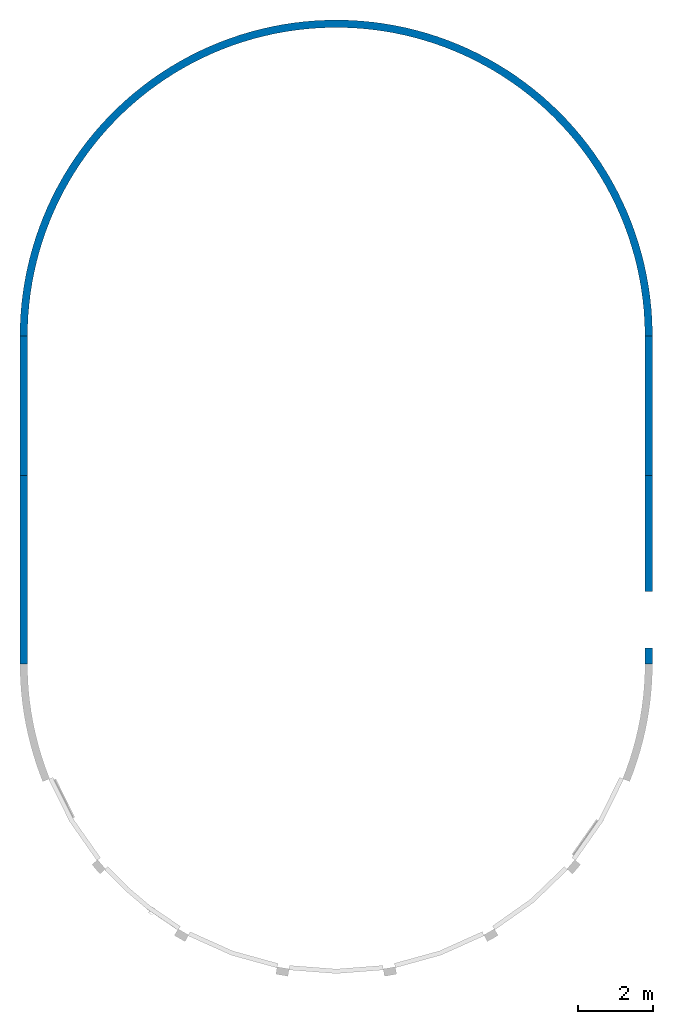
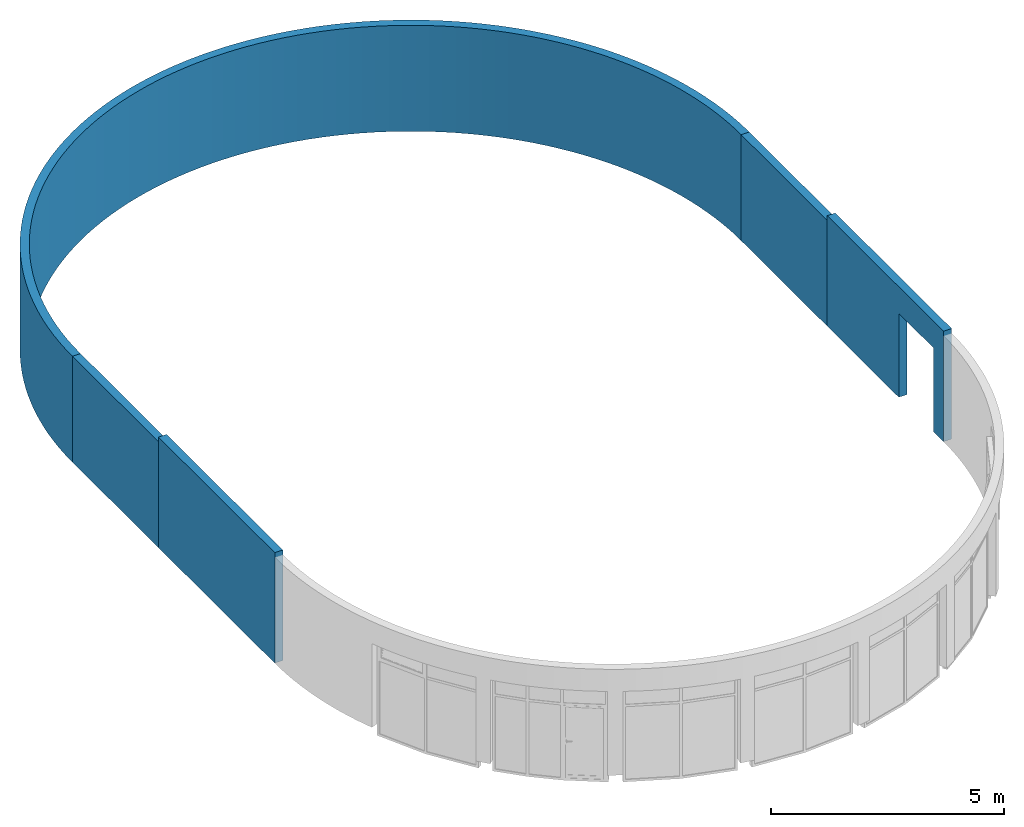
# One storey, part 1 of 7: 5 walls, 1 opening.
"""IFC4 building model written with IfcOpenShell, lengths in millimetres."""

from ifc_helpers import new_model, entity, si_unit, converted_unit, derived_unit, direction, frame, origin_with_axes, place, context, subcontext, project, spatial, polygons, material, constituent, constituent_set, type_object, element, save


model = new_model("IFC4")

# Units and contexts
model_context = context("Model", 3, precision=0.01, world=origin_with_axes(), true_north=direction((0.0, 1.0)))
body_context = subcontext(model_context, "Body", "Model", "MODEL_VIEW")
ifc_project = project(units=[si_unit("LENGTHUNIT", "METRE", prefix="MILLI"), si_unit("AREAUNIT", "SQUARE_METRE"), si_unit("VOLUMEUNIT", "CUBIC_METRE"), converted_unit("PLANEANGLEUNIT", "DEGREE", entity("IfcPlaneAngleMeasure", 0.0174532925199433), si_unit("PLANEANGLEUNIT", "RADIAN"), dimensions=[0, 0, 0, 0, 0, 0, 0]), converted_unit("TIMEUNIT", "Year", entity("IfcTimeMeasure", 31557600.0), si_unit("TIMEUNIT", "SECOND"), dimensions=[0, 0, 1, 0, 0, 0, 0]), si_unit("MASSUNIT", "GRAM", prefix="KILO"), si_unit("THERMODYNAMICTEMPERATUREUNIT", "DEGREE_CELSIUS"), si_unit("LUMINOUSINTENSITYUNIT", "LUMEN"), si_unit("ENERGYUNIT", "JOULE", prefix="MEGA"), derived_unit("THERMALCONDUCTANCEUNIT", [(si_unit("POWERUNIT", "WATT"), 1), (si_unit("LENGTHUNIT", "METRE"), -1), (si_unit("THERMODYNAMICTEMPERATUREUNIT", "KELVIN"), -1)]), derived_unit("SPECIFICHEATCAPACITYUNIT", [(si_unit("ENERGYUNIT", "JOULE"), 1), (si_unit("MASSUNIT", "GRAM", prefix="KILO"), -1), (si_unit("THERMODYNAMICTEMPERATUREUNIT", "KELVIN"), -1)]), derived_unit("MASSDENSITYUNIT", [(si_unit("MASSUNIT", "GRAM", prefix="KILO"), 1), (si_unit("VOLUMEUNIT", "CUBIC_METRE"), -1)])], contexts=[model_context])

# Site, building, storey
site_placement = place(None, origin_with_axes())
site = spatial("IfcSite", under=ifc_project, at=site_placement, Name="Exteriér", CompositionType="ELEMENT")
building_placement = place(site_placement, origin_with_axes())
building = spatial("IfcBuilding", under=site, at=building_placement, Name="Univerzitní lezecké centrum", CompositionType="ELEMENT")
storey_placement = place(building_placement, origin_with_axes())
storey = spatial("IfcBuildingStorey", under=building, at=storey_placement, Name="1.NP", CompositionType="ELEMENT", Elevation=0.0)

# Walls
ifc_material = material(Name="Tepelná izolace - minerální vata - obvodová izolace")
ifc_constituent_1 = constituent(ifc_material, Name="Tepelná izolace - minerální vata - obvodová izolace")
ifc_constituent_set_1 = constituent_set(constituents=[ifc_constituent_1], Name="Obvodová tepelná izolace")
wall_type = type_object("IfcWallType", Name="Obvodová tepelná izolace 200", PredefinedType="NOTDEFINED")
wall_1_placement = place(storey_placement, frame((10649.85164885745, 8399.999999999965, 300.0), z_axis=(0.0, 0.0, 1.0), x_axis=(0.0, 1.0, 0.0)))
element("IfcWall", 1, at=wall_1_placement, inside=storey, type_object=wall_type, material=ifc_constituent_set_1, Name="St01", PredefinedType="NOTDEFINED", context=body_context, shape_type="Tessellation", body=[
    polygons([(147.4418335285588, -199.9999999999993, 0.0), (147.4418335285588, -199.9999999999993, 2780.0), (0.0, -199.9999999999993, 2780.0), (0.0, -199.9999999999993, 0.0), (442.1438529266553, -189.6512387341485, 0.0), (442.1438529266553, -189.6512387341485, 2780.0), (143.931313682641, 0.0, 2780.0), (0.0, 0.0, 2780.0), (0.0, 0.0, 0.0), (143.931313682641, 0.0, 0.0), (736.3011531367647, -168.9664658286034, 0.0), (736.3011531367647, -168.9664658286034, 2780.0), (431.6166183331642, 10.10236218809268, 2780.0), (431.6166183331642, 10.10236218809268, 0.0), (1029.551333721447, -137.9711648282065, 0.0), (1029.551333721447, -137.9711648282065, 2780.0), (718.7701733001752, 30.29464050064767, 2780.0), (718.7701733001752, 30.29464050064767, 0.0), (1321.533111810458, -96.70352180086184, 0.0), (1321.533111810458, -96.70352180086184, 2780.0), (1005.038206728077, 60.55195814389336, 2780.0), (1005.038206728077, 60.55195814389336, 0.0), (1611.886767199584, -45.21437829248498, 0.0), (1611.886767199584, -45.21437829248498, 2780.0), (1290.068037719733, 100.8370382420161, 2780.0), (1290.068037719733, 100.8370382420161, 0.0), (1900.254585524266, 16.4328313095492, 0.0), (1900.254585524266, 16.4328313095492, 2780.0), (1573.508510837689, 151.1002497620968, 2780.0), (1573.508510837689, 151.1002497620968, 0.0), (2186.281298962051, 88.16215792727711, 0.0), (2186.281298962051, 88.16215792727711, 2780.0), (1855.01042872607, 211.279668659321, 2780.0), (1855.01042872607, 211.279668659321, 0.0), (2469.614523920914, 169.8852313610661, 0.0), (2469.614523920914, 169.8852313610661, 2780.0), (2134.226982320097, 281.3011541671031, 2780.0), (2134.226982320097, 281.3011541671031, 0.0), (2749.905195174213, 261.5013691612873, 0.0), (2749.905195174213, 261.5013691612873, 2780.0), (2410.814178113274, 361.078440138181, 2780.0), (2410.814178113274, 361.078440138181, 0.0), (3026.807995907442, 362.8977006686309, 0.0), (3026.807995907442, 362.8977006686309, 2780.0), (2684.43126195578, 450.5132413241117, 2780.0), (2684.43126195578, 450.5132413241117, 0.0), (3299.981783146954, 473.9493060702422, 0.0), (3299.981783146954, 473.9493060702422, 2780.0), (2954.741138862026, 549.4953744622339, 2780.0), (2954.741138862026, 549.4953744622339, 0.0), (3569.090008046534, 594.519370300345, 0.0), (3569.090008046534, 594.519370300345, 2780.0), (3221.410788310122, 657.9028940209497, 2780.0), (3221.410788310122, 657.9028940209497, 0.0), (3833.801130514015, 724.4593515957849, 0.0), (3833.801130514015, 724.4593515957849, 2780.0), (3484.111674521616, 775.6022424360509, 2780.0), (3484.111674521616, 775.6022424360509, 0.0), (4093.78902766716, 863.6091644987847, 0.0), (4093.78902766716, 863.6091644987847, 2780.0), (3742.520151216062, 902.4484146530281, 2780.0), (3742.520151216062, 902.4484146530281, 0.0), (4348.733395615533, 1011.797377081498, 0.0), (4348.733395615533, 1011.797377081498, 2780.0), (3996.317860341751, 1038.285136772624, 2780.0), (3996.317860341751, 1038.285136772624, 0.0), (4598.320144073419, 1168.841422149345, 0.0), (4598.320144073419, 1168.841422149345, 2780.0), (4245.192124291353, 1182.945058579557, 2780.0), (4245.192124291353, 1182.945058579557, 0.0), (4842.241783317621, 1334.547822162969, 0.0), (4842.241783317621, 1334.547822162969, 2780.0), (4488.836331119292, 1336.249959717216, 2780.0), (4488.836331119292, 1336.249959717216, 0.0), (5080.197803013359, 1508.71242760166, 0.0), (5080.197803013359, 1508.71242760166, 2780.0), (4726.950312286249, 1498.010969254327, 2780.0), (4726.950312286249, 1498.010969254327, 0.0), (5311.895042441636, 1691.120668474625, 0.0), (5311.895042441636, 1691.120668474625, 2780.0), (4959.240712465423, 1668.028798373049, 2780.0), (4959.240712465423, 1668.028798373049, 0.0), (5537.048051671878, 1881.547818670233, 0.0), (5537.048051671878, 1881.547818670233, 2780.0), (5185.421350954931, 1846.093985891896, 2780.0), (5185.421350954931, 1846.093985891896, 0.0), (5755.379443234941, 2079.75927281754, 0.0), (5755.379443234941, 2079.75927281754, 2780.0), (5405.213574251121, 2031.987156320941, 2780.0), (5405.213574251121, 2031.987156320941, 0.0), (5966.620233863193, 2285.510835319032, 0.0), (5966.620233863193, 2285.510835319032, 2780.0), (5618.346599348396, 2225.479290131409, 2780.0), (5618.346599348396, 2225.479290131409, 0.0), (6170.51017587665, 2498.549021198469, 0.0), (6170.51017587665, 2498.549021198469, 2780.0), (5824.557847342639, 2426.332005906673, 2780.0), (5824.557847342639, 2426.332005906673, 0.0), (6366.798077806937, 2718.611368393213, 0.0), (6366.798077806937, 2718.611368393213, 2780.0), (6023.593266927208, 2634.297854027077, 2780.0), (6023.593266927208, 2634.297854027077, 0.0), (6555.242113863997, 2945.426761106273, 0.0), (6555.242113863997, 2945.426761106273, 2780.0), (6215.207647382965, 2849.120621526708, 2780.0), (6215.207647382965, 2849.120621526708, 0.0), (6735.610121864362, 3178.715763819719, 0.0), (6735.610121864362, 3178.715763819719, 2780.0), (6399.164920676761, 3070.5356477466, 2780.0), (6399.164920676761, 3070.5356477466, 0.0), (6907.67988925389, 3418.190965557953, 0.0), (6907.67988925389, 3418.190965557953, 2780.0), (6575.238452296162, 3298.270150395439, 2780.0), (6575.238452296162, 3298.270150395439, 0.0), (7071.239426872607, 3663.557333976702, 0.0), (7071.239426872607, 3663.557333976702, 2780.0), (6743.21132046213, 3532.043561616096, 2780.0), (6743.21132046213, 3532.043561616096, 0.0), (7226.087230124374, 3914.512578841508, 0.0), (7226.087230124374, 3914.512578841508, 2780.0), (6902.876583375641, 3771.567873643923, 2780.0), (6902.876583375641, 3771.567873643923, 0.0), (7372.03252722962, 4170.747524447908, 0.0), (7372.03252722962, 4170.747524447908, 2780.0), (7054.037534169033, 4016.547993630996, 2780.0), (7054.037534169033, 4016.547993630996, 0.0), (7508.895514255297, 4431.946490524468, 0.0), (7508.895514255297, 4431.946490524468, 2780.0), (7196.507943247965, 4266.68210719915, 2780.0), (7196.507943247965, 4266.68210719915, 0.0), (7636.507576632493, 4697.787681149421, 0.0), (7636.507576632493, 4697.787681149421, 2780.0), (7330.112287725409, 4521.662050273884, 2780.0), (7330.112287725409, 4521.662050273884, 0.0), (7754.711496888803, 4967.943581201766, 0.0), (7754.711496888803, 4967.943581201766, 2780.0), (7454.685967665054, 4781.1736887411, 2780.0), (7454.685967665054, 4781.1736887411, 0.0), (7863.361648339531, 5242.081359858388, 0.0), (7863.361648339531, 5242.081359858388, 2780.0), (7570.075508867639, 5044.897305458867, 2780.0), (7570.075508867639, 5044.897305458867, 0.0), (7962.324174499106, 5519.863280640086, 0.0), (7962.324174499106, 5519.863280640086, 2780.0), (7676.138751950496, 5312.507994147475, 2780.0), (7676.138751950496, 5312.507994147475, 0.0), (8051.477153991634, 5800.947117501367, 0.0), (8051.477153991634, 5800.947117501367, 2780.0), (7772.745027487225, 5583.676059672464, 2780.0), (7772.745027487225, 5583.676059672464, 0.0), (8130.710750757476, 6084.986576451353, 0.0), (8130.710750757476, 6084.986576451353, 2780.0), (7859.775316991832, 5858.067424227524, 2780.0), (7859.775316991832, 5858.067424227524, 0.0), (8199.927349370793, 6371.631722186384, 0.0), (8199.927349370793, 6371.631722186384, 2780.0), (7937.122399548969, 6135.344038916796, 2780.0), (7937.122399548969, 6135.344038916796, 0.0), (8259.041675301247, 6660.529409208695, 0.0), (8259.041675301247, 6660.529409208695, 2780.0), (8004.69098390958, 6415.164300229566, 2780.0), (8004.69098390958, 6415.164300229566, 0.0), (8307.980899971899, 6951.323716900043, 0.0), (8307.980899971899, 6951.323716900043, 2780.0), (8062.397825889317, 6697.183470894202, 2780.0), (8062.397825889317, 6697.183470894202, 0.0), (8346.684730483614, 7243.656388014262, 0.0), (8346.684730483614, 7243.656388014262, 2780.0), (8110.171830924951, 6981.0541045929, 2780.0), (8110.171830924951, 6981.0541045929, 0.0), (8375.10548389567, 7537.167270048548, 0.0), (8375.10548389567, 7537.167270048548, 2780.0), (8147.95414166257, 7266.426474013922, 2780.0), (8147.95414166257, 7266.426474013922, 0.0), (8393.20814597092, 7831.494758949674, 0.0), (8393.20814597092, 7831.494758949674, 2780.0), (8175.69821046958, 7552.949001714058, 2780.0), (8175.69821046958, 7552.949001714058, 0.0), (8400.970414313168, 8126.276244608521, 0.0), (8400.970414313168, 8126.276244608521, 2780.0), (8193.369856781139, 7840.268693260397, 2780.0), (8193.369856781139, 7840.268693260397, 0.0), (8398.382725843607, 8421.148557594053, 0.0), (8398.382725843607, 8421.148557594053, 2780.0), (8200.947309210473, 8128.031572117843, 2780.0), (8200.947309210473, 8128.031572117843, 0.0), (8385.44826858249, 8715.748416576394, 0.0), (8385.44826858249, 8715.748416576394, 2780.0), (8198.421232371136, 8415.883115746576, 2780.0), (8198.421232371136, 8415.883115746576, 0.0), (8362.182977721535, 9009.712875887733, 0.0), (8362.182977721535, 9009.712875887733, 2780.0), (8185.794738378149, 8703.468692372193, 2780.0), (8185.794738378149, 8703.468692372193, 0.0), (8328.615515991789, 9302.679772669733, 0.0), (8328.615515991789, 9302.679772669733, 2780.0), (8163.083383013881, 8990.433997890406, 2780.0), (8163.083383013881, 8990.433997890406, 0.0), (8284.787238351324, 9594.288173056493, 0.0), (8284.787238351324, 9594.288173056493, 2780.0), (8130.315146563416, 9276.425492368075, 2780.0), (8130.315146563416, 9276.425492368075, 0.0), (8230.752141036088, 9884.178816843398, 0.0), (8230.752141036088, 9884.178816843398, 2780.0), (8087.53039934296, 9561.090835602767, 2780.0), (8087.53039934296, 9561.090835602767, 0.0), (8166.576795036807, 10171.99456009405, 0.0), (8166.576795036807, 10171.99456009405, 2780.0), (8034.781851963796, 9844.07932120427, 2780.0), (8034.781851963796, 9844.07932120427, 0.0), (8092.340264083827, 10457.38081513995, 0.0), (8092.340264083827, 10457.38081513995, 2780.0), (7972.13449039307, 10125.04230866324, 2780.0), (7972.13449039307, 10125.04230866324, 0.0), (8008.134007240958, 10739.98598743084, 0.0), (8008.134007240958, 10739.98598743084, 2780.0), (7899.665495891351, 10403.63365287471, 2780.0), (7899.665495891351, 10403.63365287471, 0.0), (7914.061766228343, 11019.46190869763, 0.0), (7914.061766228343, 11019.46190869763, 2780.0), (7817.464149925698, 10679.51013058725, 2780.0), (7817.464149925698, 10679.51013058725, 0.0), (7810.23943761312, 11295.46426589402, 0.0), (7810.23943761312, 11295.46426589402, 2780.0), (7725.631724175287, 10952.33186325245, 2780.0), (7725.631724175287, 10952.33186325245, 0.0), (7696.794930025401, 11567.65302538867, 0.0), (7696.794930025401, 11567.65302538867, 2780.0), (7624.281355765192, 11221.76273575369, 2780.0), (7624.281355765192, 11221.76273575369, 0.0), (7573.868006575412, 11835.69285188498, 0.0), (7573.868006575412, 11835.69285188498, 2780.0), (7513.53790788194, 11487.47081049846, 2780.0), (7513.53790788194, 11487.47081049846, 0.0), (7441.610112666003, 12099.25352155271, 0.0), (7441.610112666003, 12099.25352155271, 2780.0), (7393.537815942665, 11749.12873636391, 2780.0), (7393.537815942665, 11749.12873636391, 0.0), (7300.184189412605, 12358.01032886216, 0.0), (7300.184189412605, 12358.01032886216, 2780.0), (7264.428919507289, 12006.41415199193, 2780.0), (7264.428919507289, 12006.41415199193, 0.0), (7149.76447290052, 12611.64448661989, 0.0), (7149.76447290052, 12611.64448661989, 2780.0), (7126.370280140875, 12259.01008293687, 2780.0), (7126.370280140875, 12259.01008293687, 0.0), (6990.536279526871, 12859.84351871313, 0.0), (6990.536279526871, 12859.84351871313, 2780.0), (6979.531985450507, 12506.60533217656, 2780.0), (6979.531985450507, 12506.60533217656, 0.0), (6822.695777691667, 13102.30164507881, 0.0), (6822.695777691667, 13102.30164507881, 2780.0), (6824.094939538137, 12748.89486350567, 2780.0), (6824.094939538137, 12748.89486350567, 0.0), (6646.449746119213, 13338.7201584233, 0.0), (6646.449746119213, 13338.7201584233, 2780.0), (6660.250640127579, 12985.58017733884, 2780.0), (6660.250640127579, 12985.58017733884, 0.0), (6462.015319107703, 13568.80779222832, 0.0), (6462.015319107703, 13568.80779222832, 2780.0), (6488.200942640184, 13216.36967846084, 2780.0), (6488.200942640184, 13216.36967846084, 0.0), (6269.619719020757, 13792.28107958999, 0.0), (6269.619719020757, 13792.28107958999, 2780.0), (6308.157811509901, 13440.9790352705, 2780.0), (6308.157811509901, 13440.9790352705, 0.0), (6069.499976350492, 14008.86470244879, 0.0), (6069.499976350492, 14008.86470244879, 2780.0), (6120.343059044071, 13659.13153007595, 2780.0), (6120.343059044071, 13659.13153007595, 0.0), (5861.902637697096, 14218.29183078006, 0.0), (5861.902637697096, 14218.29183078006, 2780.0), (5924.98807215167, 13870.55840000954, 2780.0), (5924.98807215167, 13870.55840000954, 0.0), (5647.083462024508, 14420.3044513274, 0.0), (5647.083462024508, 14420.3044513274, 2780.0), (5722.333527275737, 14074.99916814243, 2780.0), (5722.333527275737, 14074.99916814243, 0.0), (5425.307105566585, 14614.65368547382, 0.0), (5425.307105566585, 14614.65368547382, 2780.0), (5512.629093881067, 14272.20196439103, 2780.0), (5512.629093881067, 14272.20196439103, 0.0), (5196.84679577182, 14801.10009585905, 0.0), (5196.84679577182, 14801.10009585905, 2780.0), (5296.133126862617, 14461.92383581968, 2780.0), (5296.133126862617, 14461.92383581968, 0.0), (4961.983994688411, 14979.41398136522, 0.0), (4961.983994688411, 14979.41398136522, 2780.0), (5073.112348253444, 14643.93104595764, 2780.0), (5073.112348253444, 14643.93104595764, 0.0), (4721.008052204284, 15149.37566010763, 0.0), (4721.008052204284, 15149.37566010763, 2780.0), (4843.841518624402, 14817.99936276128, 2780.0), (4843.841518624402, 14817.99936276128, 0.0), (4474.215849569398, 15310.77574008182, 0.0), (4474.215849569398, 15310.77574008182, 2780.0), (4608.603098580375, 14983.91433486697, 2780.0), (4608.603098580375, 14983.91433486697, 0.0), (4221.911433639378, 15463.41537713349, 0.0), (4221.911433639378, 15463.41537713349, 2780.0), (4367.686900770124, 15141.47155579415, 2780.0), (4367.686900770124, 15141.47155579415, 0.0), (3964.405642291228, 15607.10651993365, 0.0), (3964.405642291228, 15607.10651993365, 2780.0), (4121.389732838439, 15290.47691577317, 2780.0), (4121.389732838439, 15290.47691577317, 0.0), (3702.015721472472, 15741.67214165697, 0.0), (3702.015721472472, 15741.67214165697, 2780.0), (3870.015031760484, 15430.74684088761, 2780.0), (3870.015031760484, 15430.74684088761, 0.0), (3435.064934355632, 15866.94645807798, 0.0), (3435.064934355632, 15866.94645807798, 2780.0), (3613.872490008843, 15562.10851923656, 2780.0), (3613.872490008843, 15562.10851923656, 0.0), (3163.882163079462, 15982.77513181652, 0.0), (3163.882163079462, 15982.77513181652, 2780.0), (3353.277674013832, 15684.40011383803, 2780.0), (3353.277674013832, 15684.40011383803, 0.0), (2888.8015035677, 16089.01546248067, 0.0), (2888.8015035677, 16089.01546248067, 2780.0), (3088.551635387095, 15797.47096201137, 2780.0), (3088.551635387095, 15797.47096201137, 0.0), (2610.161853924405, 16185.53656247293, 0.0), (2610.161853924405, 16185.53656247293, 2780.0), (2820.020515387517, 15901.18176099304, 2780.0), (2820.020515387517, 15901.18176099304, 0.0), (2328.306496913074, 16272.2195182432, 0.0), (2328.306496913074, 16272.2195182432, 2780.0), (2548.015143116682, 15995.40473955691, 2780.0), (2548.015143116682, 15995.40473955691, 0.0), (2043.582677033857, 16348.95753678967, 0.0), (2043.582677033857, 16348.95753678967, 2780.0), (2272.870627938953, 16080.02381542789, 2780.0), (2272.870627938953, 16080.02381542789, 0.0), (1756.341172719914, 16415.65607722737, 0.0), (1756.341172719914, 16415.65607722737, 2780.0), (1994.925946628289, 16154.93473829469, 2780.0), (1994.925946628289, 16154.93473829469, 0.0), (1466.935864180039, 16472.23296726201, 0.0), (1466.935864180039, 16472.23296726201, 2780.0), (1714.523525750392, 16220.04521824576, 2780.0), (1714.523525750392, 16220.04521824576, 0.0), (1175.723297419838, 16518.61850442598, 0.0), (1175.723297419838, 16518.61850442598, 2780.0), (1432.008819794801, 16275.27503947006, 2780.0), (1432.008819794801, 16275.27503947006, 0.0), (883.0622449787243, 16554.75554195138, 0.0), (883.0622449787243, 16554.75554195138, 2780.0), (1147.729885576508, 16320.5561590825, 2780.0), (1147.729885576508, 16320.5561590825, 0.0), (589.3132639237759, 16580.59955917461, 0.0), (589.3132639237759, 16580.59955917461, 2780.0), (862.0369534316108, 16355.83279095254, 2780.0), (862.0369534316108, 16355.83279095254, 0.0), (294.8382516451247, 16596.11871638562, 0.0), (294.8382516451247, 16596.11871638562, 2780.0), (575.2819957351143, 16381.06147443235, 2780.0), (575.2819957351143, 16381.06147443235, 0.0), (0.0, 16599.99999999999, 0.0), (0.0, 16599.99999999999, 2780.0), (287.8182932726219, 16396.21112790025, 2780.0), (287.8182932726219, 16396.21112790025, 0.0), (0.0, 16399.99999999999, 0.0), (0.0, 16399.99999999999, 2780.0)], [[[1, 2, 3, 4]], [[5, 6, 2, 1]], [[2, 7, 8, 3]], [[4, 3, 8, 9]], [[10, 1, 4, 9]], [[11, 12, 6, 5]], [[6, 13, 7, 2]], [[14, 5, 1, 10]], [[7, 10, 9, 8]], [[15, 16, 12, 11]], [[12, 17, 13, 6]], [[18, 11, 5, 14]], [[13, 14, 10, 7]], [[19, 20, 16, 15]], [[16, 21, 17, 12]], [[22, 15, 11, 18]], [[17, 18, 14, 13]], [[23, 24, 20, 19]], [[20, 25, 21, 16]], [[26, 19, 15, 22]], [[21, 22, 18, 17]], [[27, 28, 24, 23]], [[24, 29, 25, 20]], [[30, 23, 19, 26]], [[25, 26, 22, 21]], [[31, 32, 28, 27]], [[28, 33, 29, 24]], [[34, 27, 23, 30]], [[29, 30, 26, 25]], [[35, 36, 32, 31]], [[32, 37, 33, 28]], [[38, 31, 27, 34]], [[33, 34, 30, 29]], [[39, 40, 36, 35]], [[36, 41, 37, 32]], [[42, 35, 31, 38]], [[37, 38, 34, 33]], [[43, 44, 40, 39]], [[40, 45, 41, 36]], [[46, 39, 35, 42]], [[41, 42, 38, 37]], [[47, 48, 44, 43]], [[44, 49, 45, 40]], [[50, 43, 39, 46]], [[45, 46, 42, 41]], [[51, 52, 48, 47]], [[48, 53, 49, 44]], [[54, 47, 43, 50]], [[49, 50, 46, 45]], [[55, 56, 52, 51]], [[52, 57, 53, 48]], [[58, 51, 47, 54]], [[53, 54, 50, 49]], [[59, 60, 56, 55]], [[56, 61, 57, 52]], [[62, 55, 51, 58]], [[57, 58, 54, 53]], [[63, 64, 60, 59]], [[60, 65, 61, 56]], [[66, 59, 55, 62]], [[61, 62, 58, 57]], [[67, 68, 64, 63]], [[64, 69, 65, 60]], [[70, 63, 59, 66]], [[65, 66, 62, 61]], [[71, 72, 68, 67]], [[68, 73, 69, 64]], [[74, 67, 63, 70]], [[69, 70, 66, 65]], [[75, 76, 72, 71]], [[72, 77, 73, 68]], [[78, 71, 67, 74]], [[73, 74, 70, 69]], [[79, 80, 76, 75]], [[76, 81, 77, 72]], [[82, 75, 71, 78]], [[77, 78, 74, 73]], [[83, 84, 80, 79]], [[80, 85, 81, 76]], [[86, 79, 75, 82]], [[81, 82, 78, 77]], [[87, 88, 84, 83]], [[84, 89, 85, 80]], [[90, 83, 79, 86]], [[85, 86, 82, 81]], [[91, 92, 88, 87]], [[88, 93, 89, 84]], [[94, 87, 83, 90]], [[89, 90, 86, 85]], [[95, 96, 92, 91]], [[92, 97, 93, 88]], [[98, 91, 87, 94]], [[93, 94, 90, 89]], [[99, 100, 96, 95]], [[96, 101, 97, 92]], [[102, 95, 91, 98]], [[97, 98, 94, 93]], [[103, 104, 100, 99]], [[100, 105, 101, 96]], [[106, 99, 95, 102]], [[101, 102, 98, 97]], [[107, 108, 104, 103]], [[104, 109, 105, 100]], [[110, 103, 99, 106]], [[105, 106, 102, 101]], [[111, 112, 108, 107]], [[108, 113, 109, 104]], [[114, 107, 103, 110]], [[109, 110, 106, 105]], [[115, 116, 112, 111]], [[112, 117, 113, 108]], [[118, 111, 107, 114]], [[113, 114, 110, 109]], [[119, 120, 116, 115]], [[116, 121, 117, 112]], [[122, 115, 111, 118]], [[117, 118, 114, 113]], [[123, 124, 120, 119]], [[120, 125, 121, 116]], [[126, 119, 115, 122]], [[121, 122, 118, 117]], [[127, 128, 124, 123]], [[124, 129, 125, 120]], [[130, 123, 119, 126]], [[125, 126, 122, 121]], [[131, 132, 128, 127]], [[128, 133, 129, 124]], [[134, 127, 123, 130]], [[129, 130, 126, 125]], [[135, 136, 132, 131]], [[132, 137, 133, 128]], [[138, 131, 127, 134]], [[133, 134, 130, 129]], [[139, 140, 136, 135]], [[136, 141, 137, 132]], [[142, 135, 131, 138]], [[137, 138, 134, 133]], [[143, 144, 140, 139]], [[140, 145, 141, 136]], [[146, 139, 135, 142]], [[141, 142, 138, 137]], [[147, 148, 144, 143]], [[144, 149, 145, 140]], [[150, 143, 139, 146]], [[145, 146, 142, 141]], [[151, 152, 148, 147]], [[148, 153, 149, 144]], [[154, 147, 143, 150]], [[149, 150, 146, 145]], [[155, 156, 152, 151]], [[152, 157, 153, 148]], [[158, 151, 147, 154]], [[153, 154, 150, 149]], [[159, 160, 156, 155]], [[156, 161, 157, 152]], [[162, 155, 151, 158]], [[157, 158, 154, 153]], [[163, 164, 160, 159]], [[160, 165, 161, 156]], [[166, 159, 155, 162]], [[161, 162, 158, 157]], [[167, 168, 164, 163]], [[164, 169, 165, 160]], [[170, 163, 159, 166]], [[165, 166, 162, 161]], [[171, 172, 168, 167]], [[168, 173, 169, 164]], [[174, 167, 163, 170]], [[169, 170, 166, 165]], [[175, 176, 172, 171]], [[172, 177, 173, 168]], [[178, 171, 167, 174]], [[173, 174, 170, 169]], [[179, 180, 176, 175]], [[176, 181, 177, 172]], [[182, 175, 171, 178]], [[177, 178, 174, 173]], [[183, 184, 180, 179]], [[180, 185, 181, 176]], [[186, 179, 175, 182]], [[181, 182, 178, 177]], [[187, 188, 184, 183]], [[184, 189, 185, 180]], [[190, 183, 179, 186]], [[185, 186, 182, 181]], [[191, 192, 188, 187]], [[188, 193, 189, 184]], [[194, 187, 183, 190]], [[189, 190, 186, 185]], [[195, 196, 192, 191]], [[192, 197, 193, 188]], [[198, 191, 187, 194]], [[193, 194, 190, 189]], [[199, 200, 196, 195]], [[196, 201, 197, 192]], [[202, 195, 191, 198]], [[197, 198, 194, 193]], [[203, 204, 200, 199]], [[200, 205, 201, 196]], [[206, 199, 195, 202]], [[201, 202, 198, 197]], [[207, 208, 204, 203]], [[204, 209, 205, 200]], [[210, 203, 199, 206]], [[205, 206, 202, 201]], [[211, 212, 208, 207]], [[208, 213, 209, 204]], [[214, 207, 203, 210]], [[209, 210, 206, 205]], [[215, 216, 212, 211]], [[212, 217, 213, 208]], [[218, 211, 207, 214]], [[213, 214, 210, 209]], [[219, 220, 216, 215]], [[216, 221, 217, 212]], [[222, 215, 211, 218]], [[217, 218, 214, 213]], [[223, 224, 220, 219]], [[220, 225, 221, 216]], [[226, 219, 215, 222]], [[221, 222, 218, 217]], [[227, 228, 224, 223]], [[224, 229, 225, 220]], [[230, 223, 219, 226]], [[225, 226, 222, 221]], [[231, 232, 228, 227]], [[228, 233, 229, 224]], [[234, 227, 223, 230]], [[229, 230, 226, 225]], [[235, 236, 232, 231]], [[232, 237, 233, 228]], [[238, 231, 227, 234]], [[233, 234, 230, 229]], [[239, 240, 236, 235]], [[236, 241, 237, 232]], [[242, 235, 231, 238]], [[237, 238, 234, 233]], [[243, 244, 240, 239]], [[240, 245, 241, 236]], [[246, 239, 235, 242]], [[241, 242, 238, 237]], [[247, 248, 244, 243]], [[244, 249, 245, 240]], [[250, 243, 239, 246]], [[245, 246, 242, 241]], [[251, 252, 248, 247]], [[248, 253, 249, 244]], [[254, 247, 243, 250]], [[249, 250, 246, 245]], [[255, 256, 252, 251]], [[252, 257, 253, 248]], [[258, 251, 247, 254]], [[253, 254, 250, 249]], [[259, 260, 256, 255]], [[256, 261, 257, 252]], [[262, 255, 251, 258]], [[257, 258, 254, 253]], [[263, 264, 260, 259]], [[260, 265, 261, 256]], [[266, 259, 255, 262]], [[261, 262, 258, 257]], [[267, 268, 264, 263]], [[264, 269, 265, 260]], [[270, 263, 259, 266]], [[265, 266, 262, 261]], [[271, 272, 268, 267]], [[268, 273, 269, 264]], [[274, 267, 263, 270]], [[269, 270, 266, 265]], [[275, 276, 272, 271]], [[272, 277, 273, 268]], [[278, 271, 267, 274]], [[273, 274, 270, 269]], [[279, 280, 276, 275]], [[276, 281, 277, 272]], [[282, 275, 271, 278]], [[277, 278, 274, 273]], [[283, 284, 280, 279]], [[280, 285, 281, 276]], [[286, 279, 275, 282]], [[281, 282, 278, 277]], [[287, 288, 284, 283]], [[284, 289, 285, 280]], [[290, 283, 279, 286]], [[285, 286, 282, 281]], [[291, 292, 288, 287]], [[288, 293, 289, 284]], [[294, 287, 283, 290]], [[289, 290, 286, 285]], [[295, 296, 292, 291]], [[292, 297, 293, 288]], [[298, 291, 287, 294]], [[293, 294, 290, 289]], [[299, 300, 296, 295]], [[296, 301, 297, 292]], [[302, 295, 291, 298]], [[297, 298, 294, 293]], [[303, 304, 300, 299]], [[300, 305, 301, 296]], [[306, 299, 295, 302]], [[301, 302, 298, 297]], [[307, 308, 304, 303]], [[304, 309, 305, 300]], [[310, 303, 299, 306]], [[305, 306, 302, 301]], [[311, 312, 308, 307]], [[308, 313, 309, 304]], [[314, 307, 303, 310]], [[309, 310, 306, 305]], [[315, 316, 312, 311]], [[312, 317, 313, 308]], [[318, 311, 307, 314]], [[313, 314, 310, 309]], [[319, 320, 316, 315]], [[316, 321, 317, 312]], [[322, 315, 311, 318]], [[317, 318, 314, 313]], [[323, 324, 320, 319]], [[320, 325, 321, 316]], [[326, 319, 315, 322]], [[321, 322, 318, 317]], [[327, 328, 324, 323]], [[324, 329, 325, 320]], [[330, 323, 319, 326]], [[325, 326, 322, 321]], [[331, 332, 328, 327]], [[328, 333, 329, 324]], [[334, 327, 323, 330]], [[329, 330, 326, 325]], [[335, 336, 332, 331]], [[332, 337, 333, 328]], [[338, 331, 327, 334]], [[333, 334, 330, 329]], [[339, 340, 336, 335]], [[336, 341, 337, 332]], [[342, 335, 331, 338]], [[337, 338, 334, 333]], [[343, 344, 340, 339]], [[340, 345, 341, 336]], [[346, 339, 335, 342]], [[341, 342, 338, 337]], [[347, 348, 344, 343]], [[344, 349, 345, 340]], [[350, 343, 339, 346]], [[345, 346, 342, 341]], [[351, 352, 348, 347]], [[348, 353, 349, 344]], [[354, 347, 343, 350]], [[349, 350, 346, 345]], [[355, 356, 352, 351]], [[352, 357, 353, 348]], [[358, 351, 347, 354]], [[353, 354, 350, 349]], [[359, 360, 356, 355]], [[356, 361, 357, 352]], [[362, 355, 351, 358]], [[357, 358, 354, 353]], [[359, 363, 364, 360]], [[360, 364, 361, 356]], [[363, 359, 355, 362]], [[361, 362, 358, 357]], [[364, 363, 362, 361]]], closed=True),
])
ifc_constituent_2 = constituent(ifc_material, Name="Tepelná izolace - minerální vata - obvodová izolace")
ifc_constituent_set_2 = constituent_set(constituents=[ifc_constituent_2], Name="Obvodová tepelná izolace")
wall_2_placement = place(storey_placement, frame((10649.85164885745, 8399.999999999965, 300.0), z_axis=(0.0, 0.0, 1.0), x_axis=(0.0, -1.0, 0.0)))
element("IfcWall", 2, at=wall_2_placement, inside=storey, type_object=wall_type, material=ifc_constituent_set_2, Name="St01", PredefinedType="NOTDEFINED", context=body_context, shape_type="Tessellation", body=[
    polygons([(3700.000000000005, 0.0, 2780.000000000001), (3700.000000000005, 199.9999999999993, 2780.000000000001), (0.0, 200.0000000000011, 2780.000000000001), (0.0, 0.0, 2780.000000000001), (3700.000000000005, 0.0, 0.0), (3700.000000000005, 199.9999999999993, 0.0), (0.0, 199.9999999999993, 0.0), (0.0, 0.0, 0.0)], [[[1, 2, 3, 4]], [[1, 5, 6, 2]], [[2, 6, 7, 3]], [[4, 3, 7, 8]], [[5, 1, 4, 8]], [[6, 5, 8, 7]]], closed=True),
])

# Wall, opening
ifc_constituent_3 = constituent(ifc_material, Name="Tepelná izolace - minerální vata - obvodová izolace")
ifc_constituent_set_3 = constituent_set(constituents=[ifc_constituent_3], Name="Obvodová tepelná izolace")
wall_3_placement = place(storey_placement, frame((10649.85164885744, 4699.999999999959, 300.0), z_axis=(0.0, 0.0, 1.0), x_axis=(0.0, -1.0, 0.0)))
wall_3 = element("IfcWall", 3, at=wall_3_placement, inside=storey, type_object=wall_type, material=ifc_constituent_set_3, Name="St01", PredefinedType="NOTDEFINED", context=body_context, shape_type="Tessellation", body=[
    polygons([(4575.00000011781, 199.9999999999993, 0.0), (4575.00000011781, 199.9999999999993, 2200.0), (3075.000000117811, 199.9999999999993, 2200.0), (3075.000000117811, 199.9999999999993, 0.0), (0.0, 199.9999999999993, 0.0), (0.0, 200.0000000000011, 2900.000000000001), (5000.0, 199.9999999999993, 2900.000000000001), (5000.0, 199.9999999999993, 0.0), (4575.00000011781, 0.0, 0.0), (4575.00000011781, 0.0, 2200.0), (3075.000000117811, 0.0, 2200.0), (3075.000000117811, 0.0, 0.0), (0.0, 0.0, 0.0), (0.0, 0.0, 2900.000000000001), (5000.0, 0.0, 2900.000000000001), (5000.0, 0.0, 0.0)], [[[1, 2, 3, 4, 5, 6, 7, 8]], [[2, 1, 9, 10]], [[3, 2, 10, 11]], [[4, 3, 11, 12]], [[4, 12, 13, 5]], [[6, 5, 13, 14]], [[7, 6, 14, 15]], [[16, 8, 7, 15]], [[9, 1, 8, 16]], [[10, 9, 16, 15, 14, 13, 12, 11]]], closed=True),
])
opening_placement = place(wall_3_placement, frame((3825.00000011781, 0.0, -400.0), z_axis=(0.0, 0.0, 1.0), x_axis=(1.0, 0.0, 0.0)))
element("IfcOpeningElement", 4, at=opening_placement, cuts=wall_3, context=body_context, identifier="Reference", shape_type="Tessellation", body=[
    polygons([(-750.0, -1.000000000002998, 2600.0), (-750.0, -1.000000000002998, 0.0), (750.0, -1.000000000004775, 0.0), (750.0, -1.000000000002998, 2600.0), (-750.0, 201.0000000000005, 2600.0), (-750.0, 201.0000000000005, 0.0), (750.0, 200.9999999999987, 0.0), (750.0, 201.0000000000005, 2600.0)], [[[1, 2, 3, 4]], [[5, 6, 2, 1]], [[6, 7, 3, 2]], [[7, 8, 4, 3]], [[8, 5, 1, 4]], [[7, 6, 5, 8]]], closed=True),
])

# Walls
ifc_constituent_4 = constituent(ifc_material, Name="Tepelná izolace - minerální vata - obvodová izolace")
ifc_constituent_set_4 = constituent_set(constituents=[ifc_constituent_4], Name="Obvodová tepelná izolace")
wall_4_placement = place(storey_placement, frame((-5750.148351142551, 4700.000000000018, 300.0), z_axis=(0.0, 0.0, 1.0), x_axis=(0.0, -1.0, 0.0)))
element("IfcWall", 5, at=wall_4_placement, inside=storey, type_object=wall_type, material=ifc_constituent_set_4, Name="St01", PredefinedType="NOTDEFINED", context=body_context, shape_type="Tessellation", body=[
    polygons([(5000.000000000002, 0.0, 0.0), (5000.000000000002, -200.0000000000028, 0.0), (0.0, -200.0000000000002, 0.0), (0.0, 0.0, 0.0), (5000.000000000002, 0.0, 2900.000000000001), (5000.000000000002, -200.000000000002, 2900.000000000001), (0.0, -200.0000000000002, 2900.000000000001), (0.0, 0.0, 2900.000000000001)], [[[1, 2, 3, 4]], [[1, 5, 6, 2]], [[2, 6, 7, 3]], [[4, 3, 7, 8]], [[5, 1, 4, 8]], [[6, 5, 8, 7]]], closed=True),
])
ifc_constituent_5 = constituent(ifc_material, Name="Tepelná izolace - minerální vata - obvodová izolace")
ifc_constituent_set_5 = constituent_set(constituents=[ifc_constituent_5], Name="Obvodová tepelná izolace")
wall_5_placement = place(storey_placement, frame((-5750.148351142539, 8400.000000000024, 300.0), z_axis=(0.0, 0.0, 1.0), x_axis=(0.0, -1.0, 0.0)))
element("IfcWall", 6, at=wall_5_placement, inside=storey, type_object=wall_type, material=ifc_constituent_set_5, Name="St01", PredefinedType="NOTDEFINED", context=body_context, shape_type="Tessellation", body=[
    polygons([(3700.000000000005, 0.0, 0.0), (3700.000000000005, -200.0000000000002, 0.0), (0.0, -200.0000000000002, 0.0), (0.0, 0.0, 0.0), (3700.000000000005, 0.0, 2780.000000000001), (3700.000000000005, -200.0000000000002, 2780.000000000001), (0.0, -200.0000000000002, 2780.000000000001), (0.0, 0.0, 2780.000000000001)], [[[1, 2, 3, 4]], [[1, 5, 6, 2]], [[2, 6, 7, 3]], [[4, 3, 7, 8]], [[5, 1, 4, 8]], [[6, 5, 8, 7]]], closed=True),
])

save(model, "model.ifc")
